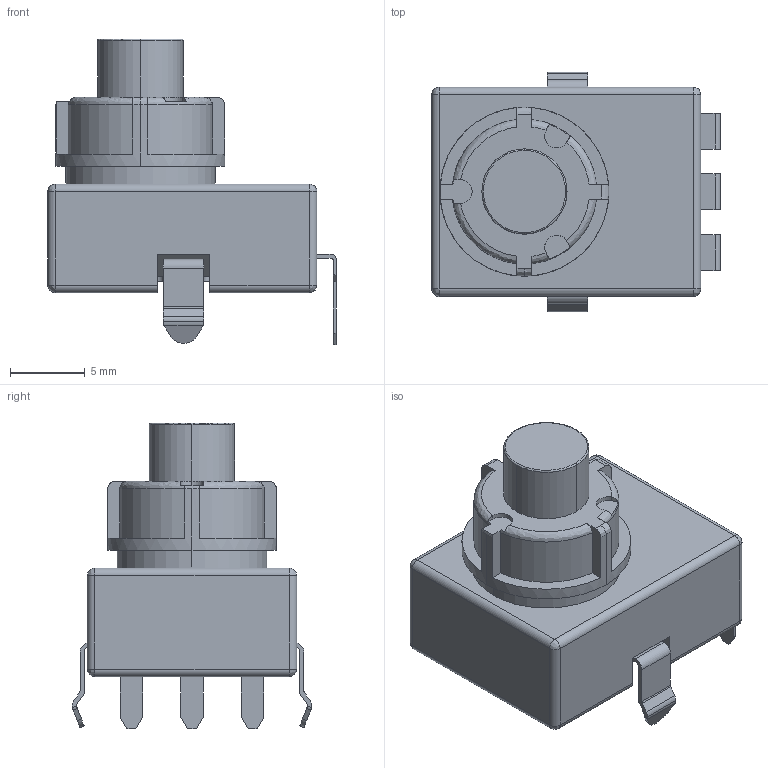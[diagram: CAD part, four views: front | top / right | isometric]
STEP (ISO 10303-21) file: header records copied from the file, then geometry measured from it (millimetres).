
FILE_DESCRIPTION (( 'STEP AP214' ), '1' );
FILE_NAME ('SPED420200.STEP', '2009-10-23T07:24:45', ( ' ' ), ( ' ' ), 'SwSTEP 2.0', 'SolidWorks 2007', '' );
FILE_SCHEMA (( 'AUTOMOTIVE_DESIGN' ));
Length unit declared in the file: millimetre
Products named in the file (1): SPED420200
Bounding box: 19.3 x 16.03 x 20.47 mm (x, y, z)
Volume: 2293 mm3; surface area: 1492.2 mm2
Topology: 1 solids, 1 shells, 218 faces, 594 edges, 377 vertices
Faces by surface type: plane 119, cylinder 76, bspline 17, torus 3, cone 3
Entity records: 9556 total; most frequent: CARTESIAN_POINT 1705, ORIENTED_EDGE 1172, DIRECTION 1113, EDGE_CURVE 586, AXIS2_PLACEMENT_3D 379, VERTEX_POINT 377, VECTOR 355, LINE 355
